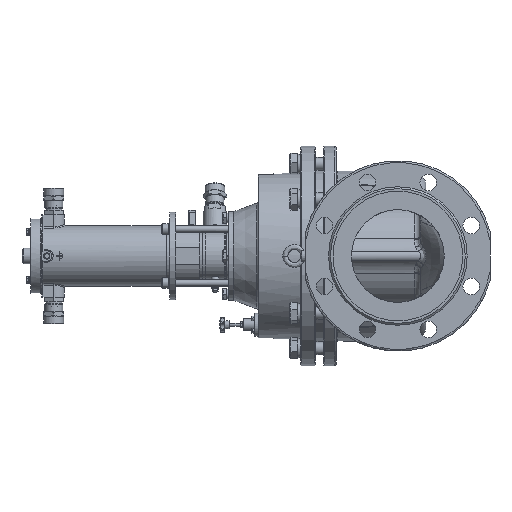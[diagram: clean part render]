
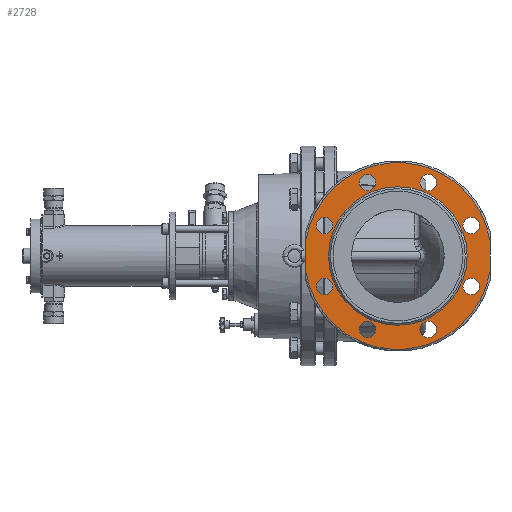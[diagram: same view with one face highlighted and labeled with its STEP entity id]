
A CAD part, left-side view. The second image highlights one B-rep face of the part: STEP entity #2728.
In plain terms, the highlighted planar face has unit normal (-1, 0, 0).
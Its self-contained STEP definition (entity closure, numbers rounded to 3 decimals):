
#2728=ADVANCED_FACE('',(#42173,#42175,#42177,#42179,#42181,#42183,#42185,#42187,
#42189,#42191),#42193,.T.);
#42173=FACE_BOUND('',#42174,.T.);
#42174=EDGE_LOOP('',(#71638));
#42175=FACE_BOUND('',#42176,.T.);
#42176=EDGE_LOOP('',(#71639));
#42177=FACE_BOUND('',#42178,.T.);
#42178=EDGE_LOOP('',(#71640));
#42179=FACE_BOUND('',#42180,.T.);
#42180=EDGE_LOOP('',(#71641));
#42181=FACE_BOUND('',#42182,.T.);
#42182=EDGE_LOOP('',(#71642));
#42183=FACE_BOUND('',#42184,.T.);
#42184=EDGE_LOOP('',(#71643));
#42185=FACE_BOUND('',#42186,.T.);
#42186=EDGE_LOOP('',(#71644));
#42187=FACE_BOUND('',#42188,.T.);
#42188=EDGE_LOOP('',(#71645));
#42189=FACE_BOUND('',#42190,.T.);
#42190=EDGE_LOOP('',(#71646));
#42191=FACE_OUTER_BOUND('',#42192,.T.);
#42192=EDGE_LOOP('',(#71647,#71648,#71649,#71650));
#42193=PLANE('',#42194);
#42194=AXIS2_PLACEMENT_3D('',#42195,#42196,#42197);
#42195=CARTESIAN_POINT('',(-237.,0.,0.));
#42196=DIRECTION('',(-1.,0.,0.));
#42197=DIRECTION('',(0.,-1.,0.));
#71638=ORIENTED_EDGE('',*,*,#83298,.T.);
#71639=ORIENTED_EDGE('',*,*,#83296,.T.);
#71640=ORIENTED_EDGE('',*,*,#83294,.T.);
#71641=ORIENTED_EDGE('',*,*,#83292,.T.);
#71642=ORIENTED_EDGE('',*,*,#83290,.T.);
#71643=ORIENTED_EDGE('',*,*,#83288,.T.);
#71644=ORIENTED_EDGE('',*,*,#83286,.T.);
#71645=ORIENTED_EDGE('',*,*,#83284,.T.);
#71646=ORIENTED_EDGE('',*,*,#83313,.F.);
#71647=ORIENTED_EDGE('',*,*,#83267,.T.);
#71648=ORIENTED_EDGE('',*,*,#83314,.T.);
#71649=ORIENTED_EDGE('',*,*,#83277,.T.);
#71650=ORIENTED_EDGE('',*,*,#83315,.T.);
#83267=EDGE_CURVE('',#95205,#95206,#95207,.F.);
#83277=EDGE_CURVE('',#95223,#95224,#95225,.F.);
#83284=EDGE_CURVE('',#95235,#95235,#95236,.F.);
#83286=EDGE_CURVE('',#95238,#95238,#95239,.F.);
#83288=EDGE_CURVE('',#95241,#95241,#95242,.F.);
#83290=EDGE_CURVE('',#95244,#95244,#95245,.F.);
#83292=EDGE_CURVE('',#95247,#95247,#95248,.F.);
#83294=EDGE_CURVE('',#95250,#95250,#95251,.F.);
#83296=EDGE_CURVE('',#95253,#95253,#95254,.F.);
#83298=EDGE_CURVE('',#95256,#95256,#95257,.F.);
#83313=EDGE_CURVE('',#95279,#95279,#95280,.T.);
#83314=EDGE_CURVE('',#95206,#95223,#95281,.T.);
#83315=EDGE_CURVE('',#95224,#95205,#95282,.T.);
#95205=VERTEX_POINT('',#141706);
#95206=VERTEX_POINT('',#141707);
#95207=LINE('',#141708,#141709);
#95223=VERTEX_POINT('',#142065);
#95224=VERTEX_POINT('',#142066);
#95225=LINE('',#142067,#142068);
#95235=VERTEX_POINT('',#142265);
#95236=CIRCLE('',#142266,13.);
#95238=VERTEX_POINT('',#142273);
#95239=CIRCLE('',#142274,13.);
#95241=VERTEX_POINT('',#142281);
#95242=CIRCLE('',#142282,13.);
#95244=VERTEX_POINT('',#142289);
#95245=CIRCLE('',#142290,13.);
#95247=VERTEX_POINT('',#142297);
#95248=CIRCLE('',#142298,13.);
#95250=VERTEX_POINT('',#142305);
#95251=CIRCLE('',#142306,13.);
#95253=VERTEX_POINT('',#142313);
#95254=CIRCLE('',#142314,13.);
#95256=VERTEX_POINT('',#142321);
#95257=CIRCLE('',#142322,13.);
#95279=VERTEX_POINT('',#142635);
#95280=CIRCLE('',#142636,109.);
#95281=CIRCLE('',#142640,147.);
#95282=CIRCLE('',#142644,147.);
#141706=CARTESIAN_POINT('',(-237.,-145.,-24.166));
#141707=CARTESIAN_POINT('',(-237.,-145.,24.166));
#141708=CARTESIAN_POINT('',(-237.,-145.,24.166));
#141709=VECTOR('',#141710,1.);
#141710=DIRECTION('',(0.,0.,-1.));
#142065=CARTESIAN_POINT('',(-237.,145.,24.166));
#142066=CARTESIAN_POINT('',(-237.,145.,-24.166));
#142067=CARTESIAN_POINT('',(-237.,145.,-24.166));
#142068=VECTOR('',#142069,1.);
#142069=DIRECTION('',(0.,0.,1.));
#142265=CARTESIAN_POINT('',(-237.,47.835,128.485));
#142266=AXIS2_PLACEMENT_3D('',#142267,#142268,#142269);
#142267=CARTESIAN_POINT('',(-237.,47.835,115.485));
#142268=DIRECTION('',(-1.,0.,0.));
#142269=DIRECTION('',(0.,0.,1.));
#142273=CARTESIAN_POINT('',(-237.,115.485,60.835));
#142274=AXIS2_PLACEMENT_3D('',#142275,#142276,#142277);
#142275=CARTESIAN_POINT('',(-237.,115.485,47.835));
#142276=DIRECTION('',(-1.,0.,0.));
#142277=DIRECTION('',(0.,0.,1.));
#142281=CARTESIAN_POINT('',(-237.,115.485,-60.835));
#142282=AXIS2_PLACEMENT_3D('',#142283,#142284,#142285);
#142283=CARTESIAN_POINT('',(-237.,115.485,-47.835));
#142284=DIRECTION('',(-1.,0.,0.));
#142285=DIRECTION('',(0.,-0.,-1.));
#142289=CARTESIAN_POINT('',(-237.,47.835,-128.485));
#142290=AXIS2_PLACEMENT_3D('',#142291,#142292,#142293);
#142291=CARTESIAN_POINT('',(-237.,47.835,-115.485));
#142292=DIRECTION('',(-1.,0.,0.));
#142293=DIRECTION('',(0.,-0.,-1.));
#142297=CARTESIAN_POINT('',(-237.,-47.835,-128.485));
#142298=AXIS2_PLACEMENT_3D('',#142299,#142300,#142301);
#142299=CARTESIAN_POINT('',(-237.,-47.835,-115.485));
#142300=DIRECTION('',(-1.,0.,0.));
#142301=DIRECTION('',(0.,-0.,-1.));
#142305=CARTESIAN_POINT('',(-237.,-115.485,-60.835));
#142306=AXIS2_PLACEMENT_3D('',#142307,#142308,#142309);
#142307=CARTESIAN_POINT('',(-237.,-115.485,-47.835));
#142308=DIRECTION('',(-1.,0.,0.));
#142309=DIRECTION('',(0.,-0.,-1.));
#142313=CARTESIAN_POINT('',(-237.,-47.835,128.485));
#142314=AXIS2_PLACEMENT_3D('',#142315,#142316,#142317);
#142315=CARTESIAN_POINT('',(-237.,-47.835,115.485));
#142316=DIRECTION('',(-1.,0.,0.));
#142317=DIRECTION('',(0.,0.,1.));
#142321=CARTESIAN_POINT('',(-237.,-115.485,60.835));
#142322=AXIS2_PLACEMENT_3D('',#142323,#142324,#142325);
#142323=CARTESIAN_POINT('',(-237.,-115.485,47.835));
#142324=DIRECTION('',(-1.,0.,0.));
#142325=DIRECTION('',(0.,0.,1.));
#142635=CARTESIAN_POINT('',(-237.,-109.,0.));
#142636=AXIS2_PLACEMENT_3D('',#142637,#142638,#142639);
#142637=CARTESIAN_POINT('',(-237.,0.,0.));
#142638=DIRECTION('',(-1.,0.,0.));
#142639=DIRECTION('',(0.,-1.,0.));
#142640=AXIS2_PLACEMENT_3D('',#142641,#142642,#142643);
#142641=CARTESIAN_POINT('',(-237.,0.,0.));
#142642=DIRECTION('',(-1.,0.,0.));
#142643=DIRECTION('',(0.,-0.986,0.164));
#142644=AXIS2_PLACEMENT_3D('',#142645,#142646,#142647);
#142645=CARTESIAN_POINT('',(-237.,0.,0.));
#142646=DIRECTION('',(-1.,0.,0.));
#142647=DIRECTION('',(0.,0.986,-0.164));
